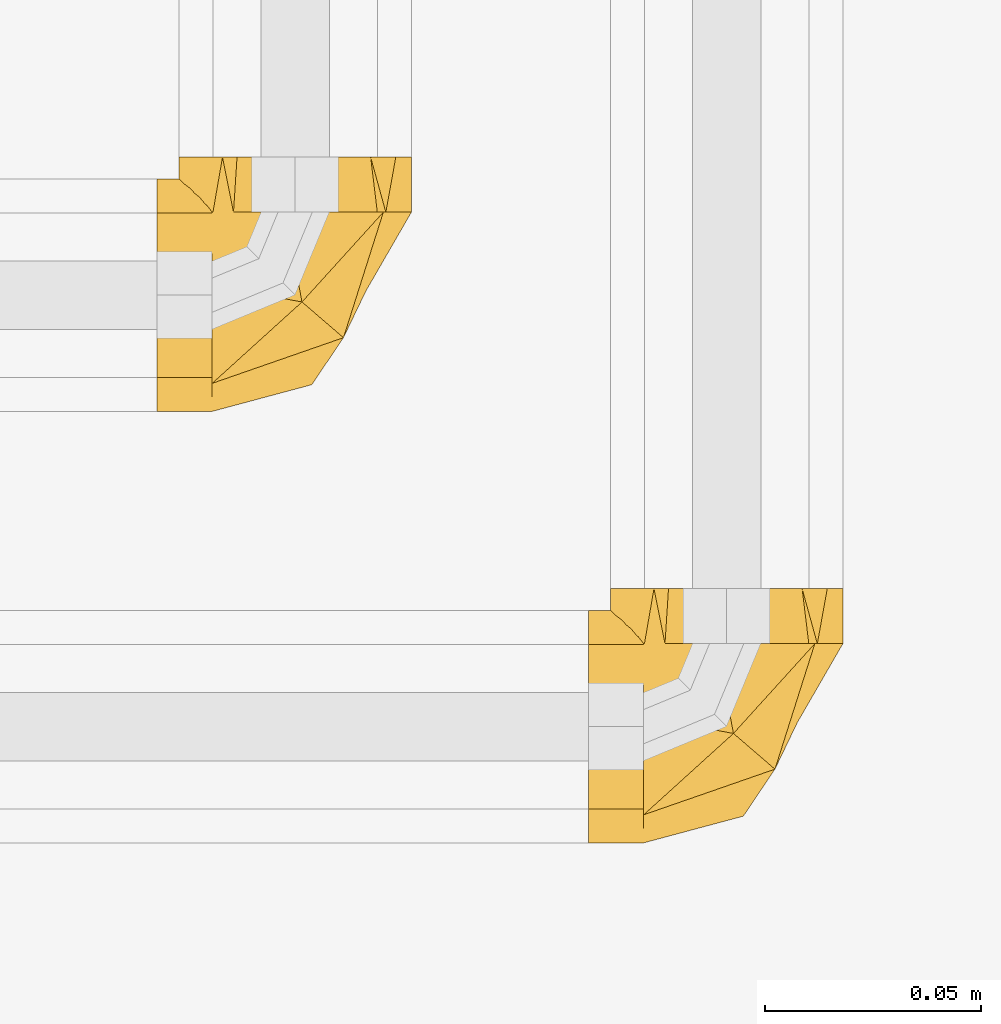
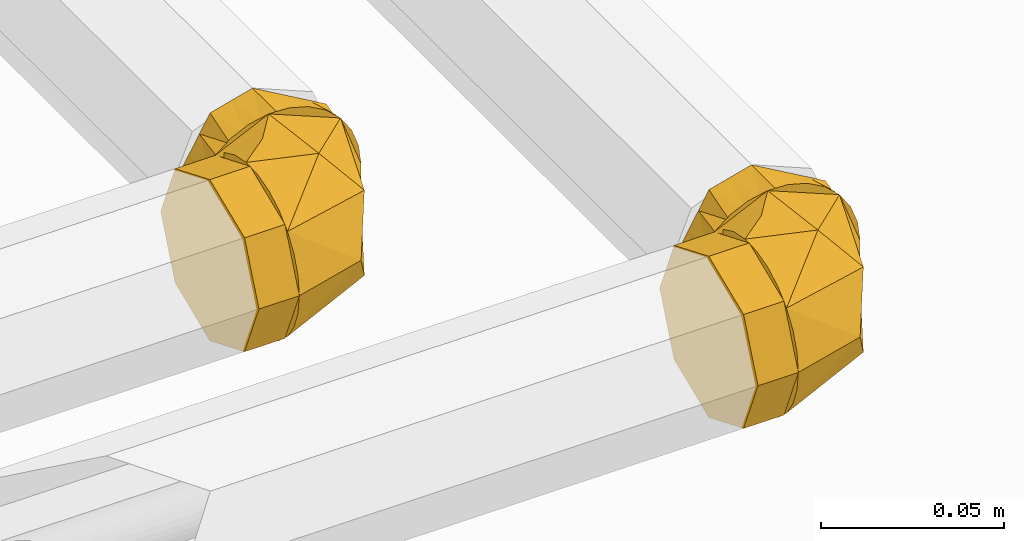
# One storey, part 288 of 652: 2 coverings.
"""IFC2X3 building model written with IfcOpenShell, lengths in millimetres."""

from ifc_helpers import new_model, entity, si_unit, converted_unit, direction, frame, origin, place, context, subcontext, project, spatial, face_set, surface_model, material, type_object, element, save


model = new_model("IFC2X3")

# Units and contexts
model_context = context("Model", 3, precision=0.01, world=frame((0.0, 0.0, 308426.39999999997)), true_north=direction((6.123233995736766e-17, 1.0)))
plan_context = context("Plan", 3, precision=0.01, world=frame((0.0, 0.0, 308426.39999999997)), true_north=direction((6.123233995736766e-17, 1.0)))
body_context = subcontext(model_context, "Body", "Model", "MODEL_VIEW")
ifc_project = project(units=[si_unit("LENGTHUNIT", "METRE", prefix="MILLI"), si_unit("AREAUNIT", "SQUARE_METRE"), si_unit("VOLUMEUNIT", "CUBIC_METRE"), converted_unit("PLANEANGLEUNIT", "DEGREE", entity("IfcPlaneAngleMeasure", 0.017453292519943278), si_unit("PLANEANGLEUNIT", "RADIAN"), dimensions=[0, 0, 0, 0, 0, 0, 0])], contexts=[model_context, plan_context])

# Site, building, storey
site_placement = place(None, origin())
site = spatial("IfcSite", under=ifc_project, at=site_placement, Name="Default", CompositionType="ELEMENT")
building_placement = place(site_placement, origin())
building = spatial("IfcBuilding", under=site, at=building_placement, CompositionType="ELEMENT")
storey_placement = place(building_placement, frame((0.0, 0.0, 1730.6999999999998)))
storey = spatial("IfcBuildingStorey", under=building, at=storey_placement, Name="EG_Produktion_FFB", CompositionType="ELEMENT", Elevation=1730.6999999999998)

# Coverings
ifc_material = material(Name="Dämmung - Armaflex-Schlauch")
covering_type = type_object("IfcCoveringType", Name="Rohrdämmung außen:Armaflex-Schlauch", PredefinedType="INSULATION")
covering_1_placement = place(storey_placement, frame((24482.624732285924, 36453.50378550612, 3771.4672277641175)))
element("IfcCovering", 1, at=covering_1_placement, inside=storey, type_object=covering_type, material=ifc_material, Name="Rohrdämmung außen:Armaflex-Schlauch", ObjectType="Rohrdämmung außen:Armaflex-Schlauch", PredefinedType="INSULATION", context=body_context, shape_type="SurfaceModel", body=[
    surface_model("IfcFaceBasedSurfaceModel", [(12.766250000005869, 47.75027223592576, 9.656421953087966), (12.766250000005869, 42.79223424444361, 5.678961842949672), (12.766250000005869, 37.04024292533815, 2.9739802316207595), (12.766250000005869, 30.81456370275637, 1.6920879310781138), (12.766250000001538, 24.461836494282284, 1.904659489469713), (12.766250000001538, 18.33577512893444, 3.599859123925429), (12.766250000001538, 12.77747289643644, 6.683299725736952), (12.766250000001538, 8.09641079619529, 10.983298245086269), (12.766250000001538, 4.553225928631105, 16.26043484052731), (12.766250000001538, 2.3451994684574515, 22.220883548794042), (12.766250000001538, 1.5952722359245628, 28.53277223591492), (12.766250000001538, 2.3451994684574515, 34.844660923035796), (12.766250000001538, 4.553225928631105, 40.80510963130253), (12.766250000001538, 8.09641079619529, 46.08224622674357), (12.766250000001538, 12.77747289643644, 50.38224474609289), (12.766250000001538, 18.33577512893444, 53.46568534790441), (12.766250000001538, 24.461836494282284, 55.16088498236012), (12.766250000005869, 30.81456370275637, 55.373456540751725), (12.766250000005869, 37.04024292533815, 54.09156424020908), (12.766250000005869, 42.79223424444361, 51.38658262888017), (12.766250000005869, 47.75027223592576, 47.409122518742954), (17.72428799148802, 47.75027223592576, 5.678961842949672), (23.476279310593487, 47.75027223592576, 2.9739802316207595), (29.701958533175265, 47.75027223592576, 1.6920879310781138), (36.05468574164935, 47.750272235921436, 1.904659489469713), (42.180747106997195, 47.750272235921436, 3.599859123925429), (47.739049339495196, 47.750272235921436, 6.683299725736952), (52.420111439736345, 47.750272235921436, 10.983298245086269), (55.96329630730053, 47.750272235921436, 16.26043484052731), (58.17132276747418, 47.750272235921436, 22.220883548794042), (58.92125000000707, 47.750272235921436, 28.53277223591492), (58.17132276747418, 47.750272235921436, 34.844660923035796), (55.96329630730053, 47.750272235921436, 40.80510963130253), (52.420111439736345, 47.750272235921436, 46.08224622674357), (47.739049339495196, 47.750272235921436, 50.38224474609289), (42.180747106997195, 47.750272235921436, 53.46568534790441), (36.05468574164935, 47.750272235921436, 55.16088498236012), (29.701958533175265, 47.75027223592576, 55.373456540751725), (23.476279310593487, 47.75027223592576, 54.09156424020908), (17.72428799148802, 47.75027223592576, 51.38658262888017), (22.70972205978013, 39.0687486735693, 2.2764383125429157), (35.84380409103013, 7.779960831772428, 28.532975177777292), (12.766142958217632, 19.455992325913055, 6.337818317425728), (33.56487342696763, 26.95088368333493, 3.599613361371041), (43.182891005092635, 18.674644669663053, 14.285007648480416), (48.375597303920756, 29.48561268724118, 28.532975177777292), (41.06209022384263, 47.74961415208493, 6.337818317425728), (43.182891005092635, 18.674644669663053, 42.780361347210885), (33.56487342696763, 26.95088368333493, 53.46575563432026), (22.70972205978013, 39.0687486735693, 54.78951204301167), (41.06209022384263, 47.74961415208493, 50.728132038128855), (12.766142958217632, 19.455992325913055, 50.728132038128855), (0.0, 1.5952722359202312, 28.532772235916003), (0.0, 3.5677250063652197, 33.29469446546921), (0.0, 5.540177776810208, 38.05661669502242), (0.0, 7.512630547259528, 42.818538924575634), (0.0, 9.485083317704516, 47.58046115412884), (0.0, 14.247005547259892, 49.552913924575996), (0.0, 19.008927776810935, 51.52536669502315), (0.0, 23.770850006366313, 53.49781946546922), (0.0, 28.532772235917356, 55.470272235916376), (0.0, 33.2946944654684, 53.49781946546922), (0.0, 38.05661669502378, 51.52536669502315), (0.0, 42.81853892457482, 49.552913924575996), (0.0, 47.5804611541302, 47.58046115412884), (0.0, 49.552913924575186, 42.818538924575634), (0.0, 51.5253666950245, 38.05661669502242), (0.0, 53.497819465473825, 33.29469446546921), (0.0, 55.47027223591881, 28.532772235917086), (0.0, 53.49781946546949, 23.770850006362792), (0.0, 51.5253666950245, 19.008927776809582), (0.0, 49.552913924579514, 14.247005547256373), (0.0, 47.5804611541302, 9.485083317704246), (0.0, 42.81853892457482, 7.512630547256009), (0.0, 38.05661669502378, 5.5401777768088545), (0.0, 33.29469446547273, 3.567725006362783), (0.0, 28.532772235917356, 1.595272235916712), (0.0, 23.77085000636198, 3.567725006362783), (0.0, 19.008927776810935, 5.5401777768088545), (0.0, 14.247005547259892, 7.512630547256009), (0.0, 9.485083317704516, 9.485083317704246), (0.0, 7.512630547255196, 14.247005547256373), (0.0, 5.540177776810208, 19.008927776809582), (0.0, 3.5677250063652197, 23.770850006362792), (12.766250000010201, 1.5952722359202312, 28.532772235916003), (12.766250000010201, 3.567725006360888, 23.770850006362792), (12.766250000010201, 5.540177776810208, 19.008927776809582), (12.766250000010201, 7.512630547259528, 14.24700554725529), (12.766250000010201, 9.485083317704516, 9.485083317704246), (12.766250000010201, 15.253472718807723, 7.095738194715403), (12.766250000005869, 21.02186211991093, 4.7063930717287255), (12.766250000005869, 28.532772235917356, 1.595272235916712), (12.766250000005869, 33.29469446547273, 3.567725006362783), (12.766250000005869, 38.056616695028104, 5.540177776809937), (12.766250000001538, 42.81853892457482, 7.512630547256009), (12.766250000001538, 47.5804611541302, 9.485083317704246), (12.766250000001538, 49.96980627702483, 15.253472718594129), (12.766250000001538, 52.35915139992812, 21.021862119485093), (12.766250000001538, 55.47027223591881, 28.532772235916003), (12.766250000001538, 53.497819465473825, 33.29469446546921), (12.766250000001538, 51.5253666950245, 38.05661669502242), (12.766250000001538, 49.552913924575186, 42.81853892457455), (12.766250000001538, 47.5804611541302, 47.58046115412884), (12.766250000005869, 41.8120717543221, 49.96980627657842), (12.766250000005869, 36.043682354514, 52.359151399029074), (12.766250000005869, 28.532772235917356, 55.470272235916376), (12.766250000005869, 23.770850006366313, 53.49781946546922), (12.766250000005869, 19.008927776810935, 51.52536669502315), (12.766250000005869, 14.24700554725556, 49.552913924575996), (12.766250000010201, 9.485083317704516, 47.58046115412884), (12.766250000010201, 7.095738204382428, 41.81207177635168), (12.766250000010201, 4.706393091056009, 36.043682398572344), (58.92125000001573, 60.51652223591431, 28.532772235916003), (55.554062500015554, 60.51652223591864, 22.700632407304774), (52.18687500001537, 60.51652223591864, 16.868492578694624), (48.819687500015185, 60.51652223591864, 11.036352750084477), (45.45250000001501, 60.51652223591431, 5.204212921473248), (38.718125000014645, 60.51652223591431, 3.3997425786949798), (31.98375000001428, 60.51652223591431, 1.595272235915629), (26.151610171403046, 60.51652223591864, 4.962459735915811), (20.319470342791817, 60.51652223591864, 8.329647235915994), (14.487330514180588, 60.51652223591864, 11.696834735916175), (8.655190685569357, 60.51652223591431, 15.064022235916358), (6.85072034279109, 60.51652223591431, 21.798397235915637), (5.046250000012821, 60.51652223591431, 28.532772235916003), (8.413437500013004, 60.51652223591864, 34.36491206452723), (11.780625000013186, 60.51652223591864, 40.197051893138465), (15.147812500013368, 60.51652223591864, 46.02919172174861), (18.51500000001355, 60.51652223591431, 51.86133155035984), (25.249375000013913, 60.51652223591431, 53.66580189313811), (31.98375000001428, 60.51652223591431, 55.470272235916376), (37.81588982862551, 60.51652223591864, 52.10308473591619), (43.64802965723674, 60.51652223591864, 48.73589723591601), (49.480169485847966, 60.51652223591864, 45.36870973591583), (55.3123093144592, 60.51652223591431, 42.00152223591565), (57.116779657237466, 60.51652223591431, 35.26714723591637), (27.2218277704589, 47.75027223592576, 53.49781946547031), (22.459905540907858, 47.75027223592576, 51.52536669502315), (17.697983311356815, 47.75027223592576, 49.552913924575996), (12.936061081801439, 47.75027223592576, 47.58046115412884), (10.96360831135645, 47.75027223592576, 42.818538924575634), (8.99115554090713, 47.75027223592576, 38.05661669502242), (7.01870277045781, 47.75027223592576, 33.29469446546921), (5.046250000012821, 47.75027223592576, 28.532772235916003), (7.01870277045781, 47.75027223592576, 23.770850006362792), (8.99115554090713, 47.75027223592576, 19.008927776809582), (10.96360831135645, 47.75027223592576, 14.247005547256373), (12.936061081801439, 47.75027223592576, 9.485083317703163), (17.697983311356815, 47.75027223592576, 7.512630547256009), (22.459905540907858, 47.75027223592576, 5.5401777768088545), (27.221827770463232, 47.75027223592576, 3.567725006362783), (31.98375000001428, 47.75027223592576, 1.595272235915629), (36.74567222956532, 47.75027223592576, 3.567725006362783), (41.507594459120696, 47.75027223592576, 5.5401777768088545), (46.26951668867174, 47.75027223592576, 7.512630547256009), (51.03143891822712, 47.75027223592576, 9.485083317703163), (53.003891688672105, 47.75027223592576, 14.247005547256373), (54.97634445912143, 47.75027223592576, 19.008927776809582), (56.948797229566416, 47.75027223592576, 23.770850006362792), (58.921250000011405, 47.75027223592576, 28.532772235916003), (56.948797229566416, 47.75027223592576, 33.29469446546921), (54.97634445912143, 47.75027223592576, 38.05661669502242), (53.003891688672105, 47.75027223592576, 42.818538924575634), (51.03143891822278, 47.75027223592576, 47.58046115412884), (46.26951668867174, 47.75027223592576, 49.552913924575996), (41.507594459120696, 47.75027223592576, 51.52536669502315), (36.74567222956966, 47.75027223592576, 53.49781946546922), (31.98375000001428, 47.75027223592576, 55.470272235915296)], [face_set([[[0, 1, 2, 3, 4, 5, 6, 7, 8, 9, 10, 11, 12, 13, 14, 15, 16, 17, 18, 19]], [[20, 21, 22, 23, 24, 25, 26, 27, 28, 29, 30, 31, 32, 33, 34, 35, 36, 37, 38, 39]], [[0, 40, 3]], [[10, 7, 41]], [[42, 3, 43]], [[40, 43, 3]], [[23, 40, 0]], [[7, 43, 44]], [[45, 41, 44]], [[7, 44, 41]], [[27, 30, 45]], [[45, 44, 27]], [[43, 27, 44]], [[43, 23, 46]], [[43, 7, 42]], [[23, 43, 40]], [[46, 27, 43]], [[13, 10, 41]], [[33, 47, 45]], [[45, 30, 33]], [[48, 47, 33]], [[49, 48, 37]], [[48, 50, 37]], [[45, 47, 41]], [[20, 49, 37]], [[47, 48, 13]], [[17, 49, 20]], [[41, 47, 13]], [[48, 17, 51]], [[48, 33, 50]], [[17, 48, 49]], [[51, 13, 48]]]), face_set([[[52, 53, 54, 55, 56, 57, 58, 59, 60, 61, 62, 63, 64, 65, 66, 67, 68, 69, 70, 71, 72, 73, 74, 75, 76, 77, 78, 79, 80, 81, 82, 83]], [[84, 85, 86, 87, 88, 89, 90, 91, 92, 93, 94, 95, 96, 97, 98, 99, 100, 101, 102, 103, 104, 105, 106, 107, 108, 109, 110, 111]], [[111, 110, 109, 56, 55, 54, 53, 52, 84]], [[56, 109, 108, 107, 106, 105, 60, 59, 58, 57]], [[104, 103, 102, 64, 63, 62, 61, 60, 105]], [[64, 102, 101, 100, 99, 98, 68, 67, 66, 65]], [[97, 96, 95, 72, 71, 70, 69, 68, 98]], [[72, 95, 94, 93, 92, 91, 76, 75, 74, 73]], [[90, 89, 88, 80, 79, 78, 77, 76, 91]], [[80, 88, 87, 86, 85, 84, 52, 83, 82, 81]]]), face_set([[[112, 113, 114, 115, 116, 117, 118, 119, 120, 121, 122, 123, 124, 125, 126, 127, 128, 129, 130, 131, 132, 133, 134, 135]], [[136, 137, 138, 139, 140, 141, 142, 143, 144, 145, 146, 147, 148, 149, 150, 151, 152, 153, 154, 155, 156, 157, 158, 159, 160, 161, 162, 163, 164, 165, 166, 167]], [[146, 121, 147]], [[118, 150, 119]], [[150, 149, 119]], [[123, 145, 144]], [[144, 143, 124]], [[121, 146, 122]], [[120, 149, 148]], [[118, 151, 150]], [[149, 120, 119]], [[124, 123, 144]], [[148, 147, 121]], [[146, 145, 122]], [[123, 122, 145]], [[120, 148, 121]], [[154, 115, 155]], [[112, 158, 113]], [[158, 157, 113]], [[117, 153, 152]], [[152, 151, 118]], [[115, 154, 116]], [[114, 157, 156]], [[112, 159, 158]], [[157, 114, 113]], [[118, 117, 152]], [[156, 155, 115]], [[154, 153, 116]], [[117, 116, 153]], [[114, 156, 115]], [[162, 133, 163]], [[130, 166, 131]], [[166, 165, 131]], [[135, 161, 160]], [[160, 159, 112]], [[133, 162, 134]], [[132, 165, 164]], [[130, 167, 166]], [[165, 132, 131]], [[112, 135, 160]], [[164, 163, 133]], [[162, 161, 134]], [[135, 134, 161]], [[132, 164, 133]], [[138, 127, 139]], [[124, 142, 125]], [[142, 141, 125]], [[129, 137, 136]], [[136, 167, 130]], [[127, 138, 128]], [[126, 141, 140]], [[124, 143, 142]], [[141, 126, 125]], [[130, 129, 136]], [[140, 139, 127]], [[138, 137, 128]], [[129, 128, 137]], [[126, 140, 127]]])]),
])
covering_2_placement = place(storey_placement, frame((24382.62473228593, 36553.503785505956, 3771.467227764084)))
element("IfcCovering", 2, at=covering_2_placement, inside=storey, type_object=covering_type, material=ifc_material, Name="Rohrdämmung außen:Armaflex-Schlauch", ObjectType="Rohrdämmung außen:Armaflex-Schlauch", PredefinedType="INSULATION", context=body_context, shape_type="SurfaceModel", body=[
    surface_model("IfcFaceBasedSurfaceModel", [(12.766250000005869, 47.750272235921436, 9.656421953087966), (12.766250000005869, 42.792234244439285, 5.678961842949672), (12.766250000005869, 37.040242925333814, 2.9739802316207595), (12.766250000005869, 30.81456370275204, 1.6920879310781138), (12.766250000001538, 24.461836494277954, 1.904659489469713), (12.766250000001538, 18.335775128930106, 3.599859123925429), (12.766250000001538, 12.777472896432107, 6.683299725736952), (12.766250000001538, 8.096410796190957, 10.983298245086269), (12.766250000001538, 4.553225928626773, 16.26043484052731), (12.766250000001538, 2.3451994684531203, 22.220883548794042), (12.766250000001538, 1.5952722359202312, 28.53277223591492), (12.766250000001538, 2.3451994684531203, 34.844660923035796), (12.766250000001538, 4.553225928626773, 40.80510963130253), (12.766250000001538, 8.096410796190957, 46.08224622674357), (12.766250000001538, 12.777472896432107, 50.38224474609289), (12.766250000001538, 18.335775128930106, 53.46568534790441), (12.766250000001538, 24.461836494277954, 55.16088498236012), (12.766250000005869, 30.81456370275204, 55.373456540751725), (12.766250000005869, 37.040242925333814, 54.09156424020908), (12.766250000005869, 42.792234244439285, 51.38658262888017), (12.766250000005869, 47.750272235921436, 47.409122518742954), (17.72428799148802, 47.750272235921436, 5.678961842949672), (23.476279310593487, 47.750272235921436, 2.9739802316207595), (29.701958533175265, 47.750272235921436, 1.6920879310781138), (36.05468574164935, 47.7502722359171, 1.904659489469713), (42.180747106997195, 47.7502722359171, 3.599859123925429), (47.739049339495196, 47.7502722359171, 6.683299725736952), (52.420111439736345, 47.7502722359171, 10.983298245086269), (55.96329630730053, 47.7502722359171, 16.26043484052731), (58.17132276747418, 47.7502722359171, 22.220883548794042), (58.92125000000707, 47.7502722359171, 28.53277223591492), (58.17132276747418, 47.7502722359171, 34.844660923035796), (55.96329630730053, 47.7502722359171, 40.80510963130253), (52.420111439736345, 47.7502722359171, 46.08224622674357), (47.739049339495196, 47.7502722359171, 50.38224474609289), (42.180747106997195, 47.7502722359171, 53.46568534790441), (36.05468574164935, 47.7502722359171, 55.16088498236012), (29.701958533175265, 47.750272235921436, 55.373456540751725), (23.476279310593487, 47.750272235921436, 54.09156424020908), (17.72428799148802, 47.750272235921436, 51.38658262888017), (22.708849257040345, 39.069621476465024, 2.2764383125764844), (35.842931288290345, 7.778508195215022, 28.53297517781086), (12.765270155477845, 19.45453968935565, 6.3378183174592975), (33.56632606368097, 26.951756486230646, 3.5996133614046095), (43.184343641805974, 18.675517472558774, 14.285007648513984), (48.377049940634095, 29.4864854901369, 28.53297517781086), (41.061217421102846, 47.75048695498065, 6.3378183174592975), (43.184343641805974, 18.675517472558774, 42.78036134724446), (33.56632606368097, 26.951756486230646, 53.46575563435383), (22.708849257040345, 39.069621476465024, 54.789512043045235), (41.061217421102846, 47.75048695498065, 50.72813203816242), (12.765270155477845, 19.45453968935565, 50.72813203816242), (0.0, 1.5952722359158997, 28.532772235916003), (0.0, 3.567725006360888, 33.29469446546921), (0.0, 5.540177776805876, 38.05661669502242), (0.0, 7.512630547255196, 42.818538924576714), (0.0, 9.485083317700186, 47.58046115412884), (0.0, 14.247005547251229, 49.552913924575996), (0.0, 19.008927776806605, 51.525366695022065), (0.0, 23.77085000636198, 53.49781946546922), (0.0, 28.532772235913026, 55.470272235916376), (0.0, 33.2946944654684, 53.49781946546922), (0.0, 38.05661669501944, 51.525366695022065), (0.0, 42.81853892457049, 49.552913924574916), (0.0, 47.580461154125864, 47.58046115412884), (0.0, 49.55291392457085, 42.818538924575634), (0.0, 51.525366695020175, 38.05661669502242), (0.0, 53.49781946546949, 33.29469446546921), (0.0, 55.47027223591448, 28.532772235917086), (0.0, 53.49781946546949, 23.770850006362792), (0.0, 51.525366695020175, 19.008927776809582), (0.0, 49.552913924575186, 14.247005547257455), (0.0, 47.580461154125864, 9.485083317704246), (0.0, 42.81853892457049, 7.512630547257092), (0.0, 38.05661669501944, 5.540177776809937), (0.0, 33.2946944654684, 3.567725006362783), (0.0, 28.532772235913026, 1.595272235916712), (0.0, 23.77085000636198, 3.567725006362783), (0.0, 19.008927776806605, 5.540177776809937), (0.0, 14.247005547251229, 7.512630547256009), (0.0, 9.485083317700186, 9.485083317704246), (0.0, 7.512630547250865, 14.247005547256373), (0.0, 5.540177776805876, 19.008927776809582), (0.0, 3.567725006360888, 23.770850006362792), (12.766250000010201, 1.5952722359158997, 28.532772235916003), (12.766250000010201, 3.567725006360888, 23.770850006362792), (12.766250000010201, 5.540177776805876, 19.0089277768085), (12.766250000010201, 7.512630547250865, 14.24700554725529), (12.766250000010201, 9.485083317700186, 9.485083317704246), (12.766250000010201, 15.253472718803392, 7.095738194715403), (12.766250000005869, 21.021862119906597, 4.7063930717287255), (12.766250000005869, 28.532772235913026, 1.595272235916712), (12.766250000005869, 33.29469446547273, 3.567725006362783), (12.766250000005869, 38.05661669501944, 5.540177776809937), (12.766250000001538, 42.81853892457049, 7.512630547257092), (12.766250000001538, 47.580461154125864, 9.485083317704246), (12.766250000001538, 49.96980627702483, 15.25347271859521), (12.766250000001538, 52.35915139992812, 21.021862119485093), (12.766250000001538, 55.47027223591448, 28.532772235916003), (12.766250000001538, 53.49781946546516, 33.29469446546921), (12.766250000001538, 51.525366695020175, 38.05661669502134), (12.766250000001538, 49.55291392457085, 42.81853892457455), (12.766250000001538, 47.580461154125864, 47.58046115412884), (12.766250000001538, 41.81207175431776, 49.96980627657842), (12.766250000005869, 36.04368235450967, 52.359151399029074), (12.766250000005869, 28.532772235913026, 55.470272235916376), (12.766250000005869, 23.77085000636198, 53.49781946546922), (12.766250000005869, 19.008927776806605, 51.52536669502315), (12.766250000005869, 14.247005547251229, 49.552913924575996), (12.766250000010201, 9.485083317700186, 47.58046115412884), (12.766250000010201, 7.095738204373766, 41.81207177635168), (12.766250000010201, 4.706393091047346, 36.043682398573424), (58.92125000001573, 60.516522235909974, 28.532772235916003), (55.554062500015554, 60.51652223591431, 22.700632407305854), (52.18687500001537, 60.51652223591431, 16.868492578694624), (48.819687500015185, 60.516522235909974, 11.036352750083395), (45.45250000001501, 60.516522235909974, 5.204212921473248), (38.718125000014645, 60.516522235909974, 3.399742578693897), (31.98375000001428, 60.516522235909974, 1.595272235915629), (26.151610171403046, 60.51652223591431, 4.962459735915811), (20.319470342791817, 60.51652223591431, 8.329647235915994), (14.487330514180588, 60.516522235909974, 11.696834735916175), (8.655190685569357, 60.516522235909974, 15.064022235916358), (6.85072034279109, 60.516522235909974, 21.79839723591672), (5.046250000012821, 60.516522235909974, 28.532772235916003), (8.413437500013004, 60.51652223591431, 34.36491206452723), (11.780625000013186, 60.51652223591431, 40.19705189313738), (15.147812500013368, 60.51652223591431, 46.02919172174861), (18.51500000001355, 60.516522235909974, 51.86133155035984), (25.249375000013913, 60.516522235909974, 53.66580189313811), (31.98375000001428, 60.516522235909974, 55.470272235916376), (37.81588982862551, 60.51652223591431, 52.10308473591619), (43.64802965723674, 60.51652223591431, 48.73589723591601), (49.480169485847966, 60.51652223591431, 45.36870973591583), (55.3123093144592, 60.516522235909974, 42.00152223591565), (57.116779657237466, 60.516522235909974, 35.26714723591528), (27.2218277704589, 47.750272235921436, 53.49781946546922), (22.459905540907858, 47.750272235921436, 51.525366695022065), (17.697983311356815, 47.750272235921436, 49.552913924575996), (12.936061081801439, 47.750272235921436, 47.58046115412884), (10.96360831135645, 47.750272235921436, 42.818538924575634), (8.99115554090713, 47.750272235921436, 38.05661669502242), (7.01870277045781, 47.750272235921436, 33.29469446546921), (5.046250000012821, 47.750272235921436, 28.532772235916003), (7.01870277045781, 47.75027223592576, 23.770850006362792), (8.99115554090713, 47.750272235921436, 19.008927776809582), (10.96360831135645, 47.75027223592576, 14.247005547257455), (12.936061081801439, 47.750272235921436, 9.485083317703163), (17.697983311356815, 47.750272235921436, 7.512630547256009), (22.459905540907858, 47.750272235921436, 5.540177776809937), (27.221827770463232, 47.750272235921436, 3.567725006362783), (31.98375000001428, 47.750272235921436, 1.595272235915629), (36.74567222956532, 47.750272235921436, 3.567725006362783), (41.507594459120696, 47.750272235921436, 5.540177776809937), (46.26951668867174, 47.7502722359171, 7.512630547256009), (51.03143891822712, 47.750272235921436, 9.485083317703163), (53.003891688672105, 47.750272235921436, 14.247005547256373), (54.97634445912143, 47.750272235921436, 19.008927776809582), (56.948797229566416, 47.7502722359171, 23.77085000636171), (58.921250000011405, 47.750272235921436, 28.532772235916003), (56.948797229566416, 47.750272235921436, 33.29469446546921), (54.97634445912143, 47.750272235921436, 38.05661669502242), (53.003891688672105, 47.7502722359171, 42.81853892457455), (51.03143891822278, 47.750272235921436, 47.58046115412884), (46.26951668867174, 47.750272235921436, 49.552913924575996), (41.507594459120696, 47.750272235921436, 51.525366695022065), (36.74567222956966, 47.750272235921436, 53.49781946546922), (31.98375000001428, 47.750272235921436, 55.470272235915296)], [face_set([[[0, 1, 2, 3, 4, 5, 6, 7, 8, 9, 10, 11, 12, 13, 14, 15, 16, 17, 18, 19]], [[20, 21, 22, 23, 24, 25, 26, 27, 28, 29, 30, 31, 32, 33, 34, 35, 36, 37, 38, 39]], [[0, 40, 3]], [[10, 7, 41]], [[42, 3, 43]], [[40, 43, 3]], [[23, 40, 0]], [[7, 43, 44]], [[45, 41, 44]], [[7, 44, 41]], [[27, 30, 45]], [[45, 44, 27]], [[43, 27, 44]], [[43, 23, 46, 27]], [[43, 7, 42]], [[23, 43, 40]], [[13, 10, 41]], [[33, 47, 45]], [[45, 30, 33]], [[48, 47, 33]], [[49, 48, 37]], [[48, 50, 37]], [[45, 47, 41]], [[20, 49, 37]], [[47, 48, 13]], [[17, 49, 20]], [[41, 47, 13]], [[48, 17, 51]], [[48, 33, 50]], [[17, 48, 49]], [[51, 13, 48]]]), face_set([[[52, 53, 54, 55, 56, 57, 58, 59, 60, 61, 62, 63, 64, 65, 66, 67, 68, 69, 70, 71, 72, 73, 74, 75, 76, 77, 78, 79, 80, 81, 82, 83]], [[84, 85, 86, 87, 88, 89, 90, 91, 92, 93, 94, 95, 96, 97, 98, 99, 100, 101, 102, 103, 104, 105, 106, 107, 108, 109, 110, 111]], [[111, 110, 109, 56, 55, 54, 53, 52, 84]], [[56, 109, 108, 107, 106, 105, 60, 59, 58, 57]], [[104, 103, 102, 64, 63, 62, 61, 60, 105]], [[64, 102, 101, 100, 99, 98, 68, 67, 66, 65]], [[97, 96, 95, 72, 71, 70, 69, 68, 98]], [[72, 95, 94, 93, 92, 91, 76, 75, 74, 73]], [[90, 89, 88, 80, 79, 78, 77, 76, 91]], [[80, 88, 87, 86, 85, 84, 52, 83, 82, 81]]]), face_set([[[112, 113, 114, 115, 116, 117, 118, 119, 120, 121, 122, 123, 124, 125, 126, 127, 128, 129, 130, 131, 132, 133, 134, 135]], [[136, 137, 138, 139, 140, 141, 142, 143, 144, 145, 146, 147, 148, 149, 150, 151, 152, 153, 154, 155, 156, 157, 158, 159, 160, 161, 162, 163, 164, 165, 166, 167]], [[146, 121, 147]], [[118, 150, 119]], [[150, 149, 119]], [[123, 145, 144]], [[144, 143, 124]], [[121, 146, 122]], [[120, 149, 148]], [[118, 151, 150]], [[149, 120, 119]], [[124, 123, 144]], [[148, 147, 121]], [[146, 145, 122]], [[123, 122, 145]], [[120, 148, 121]], [[154, 115, 155]], [[112, 158, 113]], [[158, 157, 113]], [[117, 153, 152]], [[152, 151, 118]], [[115, 154, 116]], [[114, 157, 156]], [[112, 159, 158]], [[157, 114, 113]], [[118, 117, 152]], [[156, 155, 115]], [[154, 153, 116]], [[117, 116, 153]], [[114, 156, 115]], [[162, 133, 163]], [[130, 166, 131]], [[166, 165, 131]], [[135, 161, 160]], [[160, 159, 112]], [[133, 162, 134]], [[132, 165, 164]], [[130, 167, 166]], [[165, 132, 131]], [[112, 135, 160]], [[164, 163, 133]], [[162, 161, 134]], [[135, 134, 161]], [[132, 164, 133]], [[138, 127, 139]], [[124, 142, 125]], [[142, 141, 125]], [[129, 137, 136]], [[136, 167, 130]], [[127, 138, 128]], [[126, 141, 140]], [[124, 143, 142]], [[141, 126, 125]], [[130, 129, 136]], [[140, 139, 127]], [[138, 137, 128]], [[129, 128, 137]], [[126, 140, 127]]])]),
])

save(model, "model.ifc")
